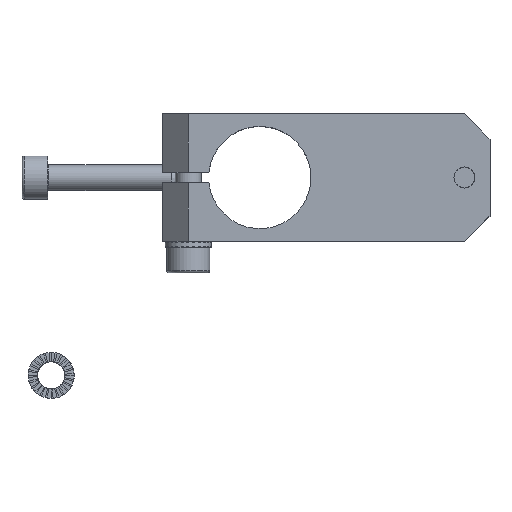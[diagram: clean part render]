
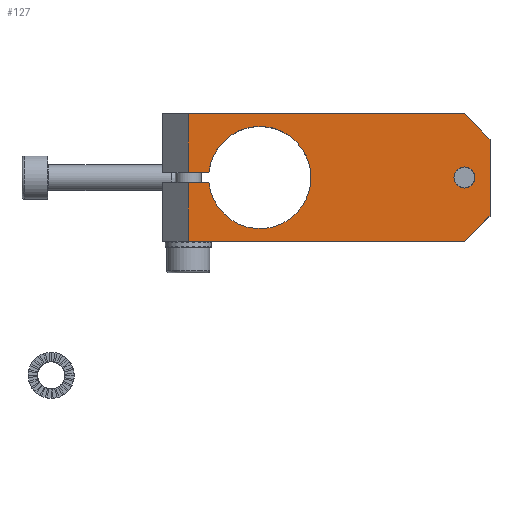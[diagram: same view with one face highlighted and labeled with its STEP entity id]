
A CAD part, top view. The second image highlights one B-rep face of the part: STEP entity #127.
In plain terms, the highlighted planar face has unit normal (0, 0, 1).
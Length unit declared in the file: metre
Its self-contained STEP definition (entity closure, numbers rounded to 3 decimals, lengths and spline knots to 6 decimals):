
#127 = ADVANCED_FACE( '', ( #239, #240 ), #241, .F. );
#239 = FACE_BOUND( '', #360, .T. );
#240 = FACE_OUTER_BOUND( '', #361, .T. );
#241 = PLANE( '', #362 );
#360 = EDGE_LOOP( '', ( #982 ) );
#361 = EDGE_LOOP( '', ( #983, #984, #985, #986, #987, #988, #989, #990, #991, #992 ) );
#362 = AXIS2_PLACEMENT_3D( '', #993, #994, #995 );
#982 = ORIENTED_EDGE( '', *, *, #1999, .F. );
#983 = ORIENTED_EDGE( '', *, *, #1982, .F. );
#984 = ORIENTED_EDGE( '', *, *, #2000, .T. );
#985 = ORIENTED_EDGE( '', *, *, #1928, .F. );
#986 = ORIENTED_EDGE( '', *, *, #1922, .T. );
#987 = ORIENTED_EDGE( '', *, *, #1950, .F. );
#988 = ORIENTED_EDGE( '', *, *, #1986, .T. );
#989 = ORIENTED_EDGE( '', *, *, #1992, .F. );
#990 = ORIENTED_EDGE( '', *, *, #2001, .T. );
#991 = ORIENTED_EDGE( '', *, *, #1939, .F. );
#992 = ORIENTED_EDGE( '', *, *, #1978, .T. );
#993 = CARTESIAN_POINT( '', ( -0.032, 0.0125, 0.025 ) );
#994 = DIRECTION( '', ( 0., 0., -1. ) );
#995 = DIRECTION( '', ( -1., 0., 0. ) );
#1922 = EDGE_CURVE( '', #2870, #2871, #2872, .F. );
#1928 = EDGE_CURVE( '', #2870, #2881, #2882, .T. );
#1939 = EDGE_CURVE( '', #2901, #2902, #2903, .T. );
#1950 = EDGE_CURVE( '', #2920, #2871, #2921, .T. );
#1978 = EDGE_CURVE( '', #2901, #2963, #2965, .T. );
#1982 = EDGE_CURVE( '', #2969, #2963, #2971, .T. );
#1986 = EDGE_CURVE( '', #2920, #2975, #2976, .F. );
#1992 = EDGE_CURVE( '', #2983, #2975, #2985, .T. );
#1999 = EDGE_CURVE( '', #2993, #2993, #2994, .T. );
#2000 = EDGE_CURVE( '', #2969, #2881, #2995, .T. );
#2001 = EDGE_CURVE( '', #2983, #2902, #2996, .T. );
#2870 = VERTEX_POINT( '', #6670 );
#2871 = VERTEX_POINT( '', #6671 );
#2872 = LINE( '', #6672, #6673 );
#2881 = VERTEX_POINT( '', #6685 );
#2882 = LINE( '', #6686, #6687 );
#2901 = VERTEX_POINT( '', #6713 );
#2902 = VERTEX_POINT( '', #6714 );
#2903 = LINE( '', #6715, #6716 );
#2920 = VERTEX_POINT( '', #6741 );
#2921 = LINE( '', #6742, #6743 );
#2963 = VERTEX_POINT( '', #6800 );
#2965 = CIRCLE( '', #6803, 0.01 );
#2969 = VERTEX_POINT( '', #6808 );
#2971 = LINE( '', #6811, #6812 );
#2975 = VERTEX_POINT( '', #6817 );
#2976 = LINE( '', #6818, #6819 );
#2983 = VERTEX_POINT( '', #6829 );
#2985 = LINE( '', #6832, #6833 );
#2993 = VERTEX_POINT( '', #6844 );
#2994 = CIRCLE( '', #6845, 0.002067 );
#2995 = LINE( '', #6846, #6847 );
#2996 = LINE( '', #6848, #6849 );
#6670 = CARTESIAN_POINT( '', ( 0.027, -0.0125, 0.025 ) );
#6671 = CARTESIAN_POINT( '', ( 0.032, -0.0075, 0.025 ) );
#6672 = CARTESIAN_POINT( '', ( 0.032, -0.0075, 0.025 ) );
#6673 = VECTOR( '', #8069, 1. );
#6685 = CARTESIAN_POINT( '', ( -0.027, -0.0125, 0.025 ) );
#6686 = CARTESIAN_POINT( '', ( 0.032, -0.0125, 0.025 ) );
#6687 = VECTOR( '', #8076, 1. );
#6713 = CARTESIAN_POINT( '', ( -0.02295, 0.001, 0.025 ) );
#6714 = CARTESIAN_POINT( '', ( -0.027, 0.001, 0.025 ) );
#6715 = CARTESIAN_POINT( '', ( -0.032, 0.001, 0.025 ) );
#6716 = VECTOR( '', #8090, 1. );
#6741 = CARTESIAN_POINT( '', ( 0.032, 0.0075, 0.025 ) );
#6742 = CARTESIAN_POINT( '', ( 0.032, 0.0125, 0.025 ) );
#6743 = VECTOR( '', #8099, 1. );
#6800 = CARTESIAN_POINT( '', ( -0.02295, -0.001, 0.025 ) );
#6803 = AXIS2_PLACEMENT_3D( '', #8131, #8132, #8133 );
#6808 = CARTESIAN_POINT( '', ( -0.027, -0.001, 0.025 ) );
#6811 = CARTESIAN_POINT( '', ( -0.032, -0.001, 0.025 ) );
#6812 = VECTOR( '', #8136, 1. );
#6817 = CARTESIAN_POINT( '', ( 0.027, 0.0125, 0.025 ) );
#6818 = CARTESIAN_POINT( '', ( 0.027, 0.0125, 0.025 ) );
#6819 = VECTOR( '', #8138, 1. );
#6829 = CARTESIAN_POINT( '', ( -0.027, 0.0125, 0.025 ) );
#6832 = CARTESIAN_POINT( '', ( -0.032, 0.0125, 0.025 ) );
#6833 = VECTOR( '', #8143, 1. );
#6844 = CARTESIAN_POINT( '', ( 0.029067, 0., 0.025 ) );
#6845 = AXIS2_PLACEMENT_3D( '', #8150, #8151, #8152 );
#6846 = CARTESIAN_POINT( '', ( -0.027, -0.0125, 0.025 ) );
#6847 = VECTOR( '', #8153, 1. );
#6848 = CARTESIAN_POINT( '', ( -0.027, 0.001, 0.025 ) );
#6849 = VECTOR( '', #8154, 1. );
#8069 = DIRECTION( '', ( -0.707, -0.707, 0. ) );
#8076 = DIRECTION( '', ( -1., 0., 0. ) );
#8090 = DIRECTION( '', ( -1., 0., 0. ) );
#8099 = DIRECTION( '', ( 0., -1., 0. ) );
#8131 = CARTESIAN_POINT( '', ( -0.013, 0., 0.025 ) );
#8132 = DIRECTION( '', ( 0., 0., -1. ) );
#8133 = DIRECTION( '', ( -1., 0., 0. ) );
#8136 = DIRECTION( '', ( 1., 0., 0. ) );
#8138 = DIRECTION( '', ( 0.707, -0.707, 0. ) );
#8143 = DIRECTION( '', ( 1., 0., 0. ) );
#8150 = CARTESIAN_POINT( '', ( 0.027, 0., 0.025 ) );
#8151 = DIRECTION( '', ( 0., 0., 1. ) );
#8152 = DIRECTION( '', ( 1., 0., 0. ) );
#8153 = DIRECTION( '', ( 0., -1., 0. ) );
#8154 = DIRECTION( '', ( 0., -1., 0. ) );
